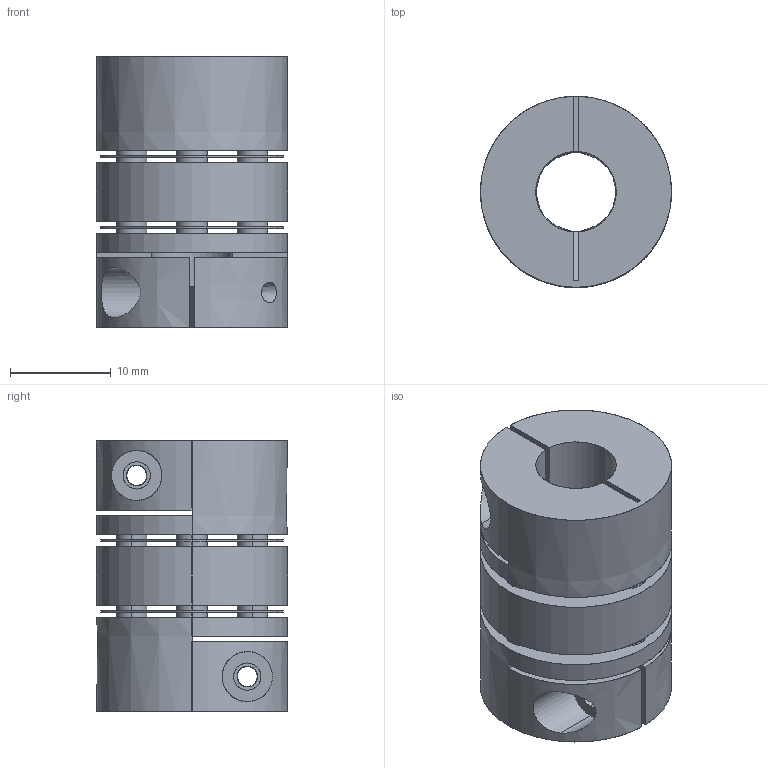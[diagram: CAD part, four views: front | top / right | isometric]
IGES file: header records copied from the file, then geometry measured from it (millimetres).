
Start section: SolidWorks IGES file using analytic representation for surfaces
Bounding box: 19 x 19 x 27 mm (x, y, z)
Surface area: 4762.5 mm2 (no closed solid volume)
Topology: 0 solids, 0 shells, 118 faces, 2712 edges, 2712 vertices
Faces by surface type: revolution 78, bspline 40
